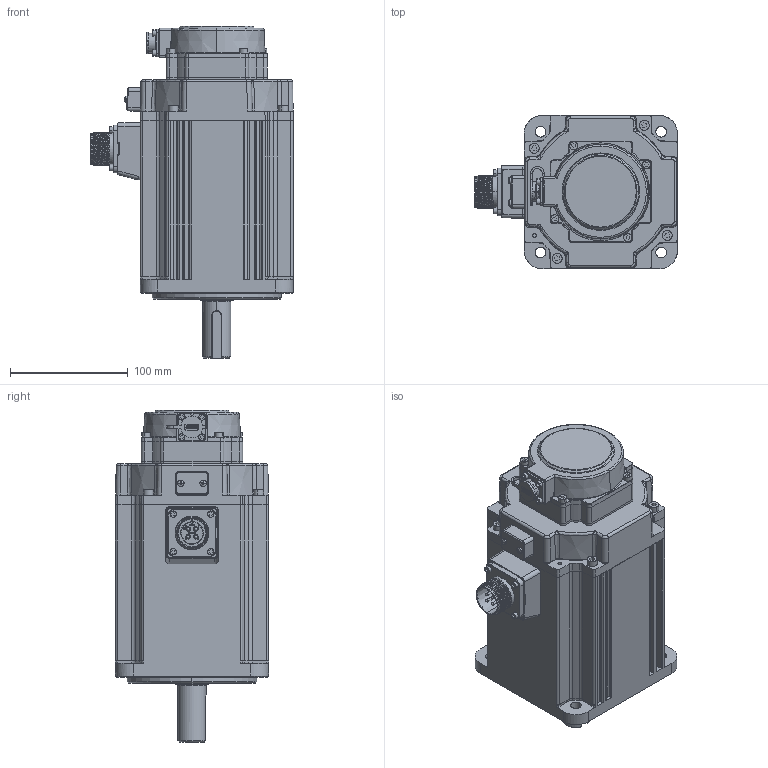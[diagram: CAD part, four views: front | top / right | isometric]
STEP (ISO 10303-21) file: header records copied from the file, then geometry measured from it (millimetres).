
FILE_DESCRIPTION (( 'STEP AP203' ), '1' );
FILE_NAME ('MS6G-130TH15BZ2-42P3.STEP', '2024-06-18T07:29:57', ( '' ), ( '' ), 'SwSTEP 2.0', 'SolidWorks 2022', '' );
FILE_SCHEMA (( 'CONFIG_CONTROL_DESIGN' ));
Products named in the file (1): MS6G-130TH15BZ2-42P3
Bounding box: 172.1 x 130 x 282 mm (x, y, z)
Volume: 3036085.5 mm3; surface area: 253759.8 mm2
Topology: 29 solids, 29 shells, 2945 faces, 7880 edges, 5124 vertices
Faces by surface type: plane 1468, cylinder 698, bspline 464, cone 157, torus 142, sphere 16
Entity records: 109902 total; most frequent: CARTESIAN_POINT 41938, ORIENTED_EDGE 15624, DIRECTION 11691, EDGE_CURVE 7812, VERTEX_POINT 5114, AXIS2_PLACEMENT_3D 3905, LINE 3881, VECTOR 3881
